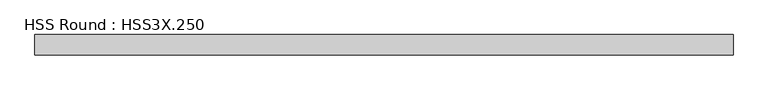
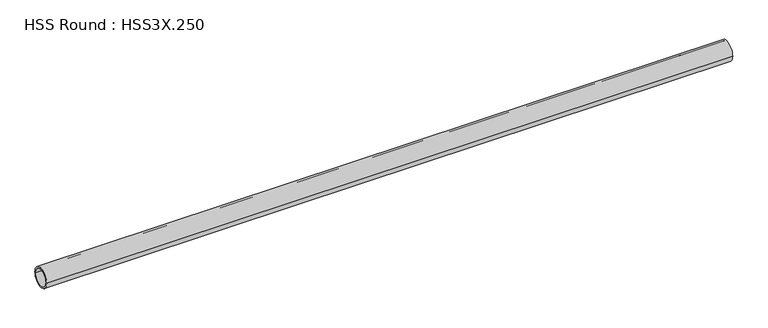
"""IFC4 building model written with IfcOpenShell, lengths in millimetres: member geometry, HSS Round : HSS3X.250."""

from ifc_helpers import new_model, si_unit, point, frame, origin, origin_2d, place, context, project, spatial, circle_curve, trimmed, segment, composite_curve, outline, extrude, source, transform, mapped, element, save


def hss_round_hss3x_250_2ccc826d(model_context):
    return source(origin(), model_context, "Body", "SweptSolid", [
        extrude(outline(composite_curve([segment(trimmed(circle_curve(origin_2d(), 38.1), [point((-38.1, 0.0))], [point((38.1, 0.0))], False, "CARTESIAN"), True, "CONTINUOUS"), segment(trimmed(circle_curve(origin_2d(), 38.1), [point((38.1, 0.0))], [point((-38.1, 0.0))], False, "CARTESIAN"), True, "CONTINUOUS")], self_intersect=False), holes=[composite_curve([segment(trimmed(circle_curve(origin_2d(), 31.75), [point((31.75, 0.0))], [point((-31.75, 0.0))], True, "CARTESIAN"), True, "CONTINUOUS"), segment(trimmed(circle_curve(origin_2d(), 31.75), [point((-31.75, 0.0))], [point((31.75, 0.0))], True, "CARTESIAN"), True, "CONTINUOUS")], self_intersect=False)]), frame((-1265.1328356, 0.0, 0.0), z_axis=(1.0, 0.0, 0.0), x_axis=(0.0, 1.0, 0.0)), (0.0, 0.0, 1.0), 2588.3374982),
    ])


if __name__ == "__main__":
    model = new_model("IFC4")
    model_context = context("Model", 3, world=origin())
    ifc_project = project(units=[si_unit("LENGTHUNIT", "METRE", prefix="MILLI")], contexts=[model_context])
    site = spatial("IfcSite", under=ifc_project)
    building = spatial("IfcBuilding", under=site)
    placement = place(None, origin())
    hss_round_hss3x_250_shape = hss_round_hss3x_250_2ccc826d(model_context)
    element("IfcMember", 1, ObjectType="HSS Round : HSS3X.250", at=placement, inside=building, context=model_context, shape_type="MappedRepresentation", body=[
        mapped(hss_round_hss3x_250_shape, transform((0.0, 0.0, 0.0), x_axis=(1.0, 0.0, 0.0), y_axis=(0.0, 1.0, 0.0), z_axis=(0.0, 0.0, 1.0))),
    ])
    save(model, "model.ifc")
